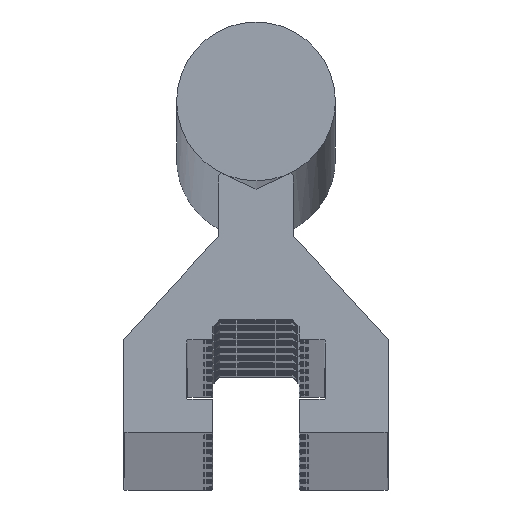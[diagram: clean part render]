
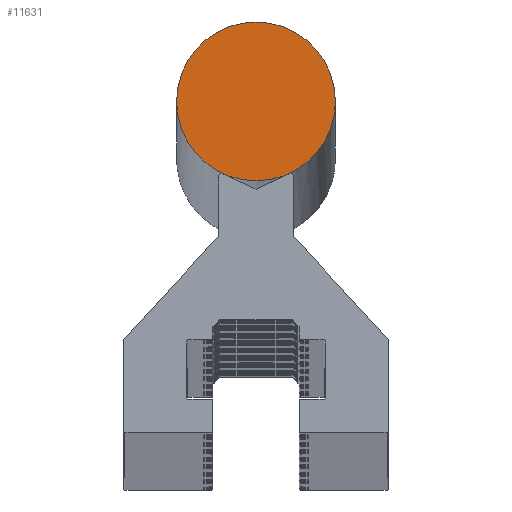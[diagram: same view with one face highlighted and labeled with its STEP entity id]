
A CAD part, top view. The second image highlights one B-rep face of the part: STEP entity #11631.
In plain terms, the highlighted planar face has unit normal (0, 0, 1).
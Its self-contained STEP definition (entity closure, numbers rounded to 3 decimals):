
#2808 = EDGE_LOOP ( 'NONE', ( #37964 ) ) ;
#8679 = EDGE_CURVE ( 'NONE', #22736, #22736, #25409, .T. ) ;
#11209 = FACE_OUTER_BOUND ( 'NONE', #2808, .T. ) ;
#11631 = ADVANCED_FACE ( 'NONE', ( #11209 ), #14862, .T. ) ;
#13623 = DIRECTION ( 'NONE',  ( 1., 0., 0. ) ) ;
#13690 = DIRECTION ( 'NONE',  ( 0., 0., 1. ) ) ;
#13743 = CARTESIAN_POINT ( 'NONE',  ( 0., 25., 1. ) ) ;
#14862 = PLANE ( 'NONE',  #22142 ) ;
#22142 = AXIS2_PLACEMENT_3D ( 'NONE', #13743, #13690, #13623 ) ;
#22736 = VERTEX_POINT ( 'NONE', #51542 ) ;
#25409 = CIRCLE ( 'NONE', #37319, 6. ) ;
#32666 = DIRECTION ( 'NONE',  ( 1., 0., 0. ) ) ;
#32773 = DIRECTION ( 'NONE',  ( 0., 0., 1. ) ) ;
#33076 = CARTESIAN_POINT ( 'NONE',  ( 0., 25., 1. ) ) ;
#37319 = AXIS2_PLACEMENT_3D ( 'NONE', #33076, #32773, #32666 ) ;
#37964 = ORIENTED_EDGE ( 'NONE', *, *, #8679, .T. ) ;
#51542 = CARTESIAN_POINT ( 'NONE',  ( 6., 25., 1. ) ) ;
